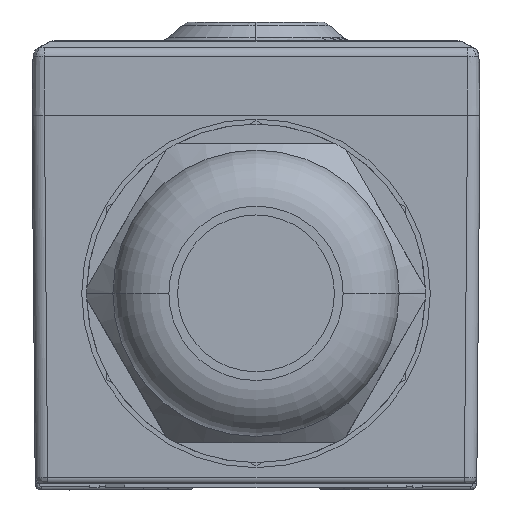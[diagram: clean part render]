
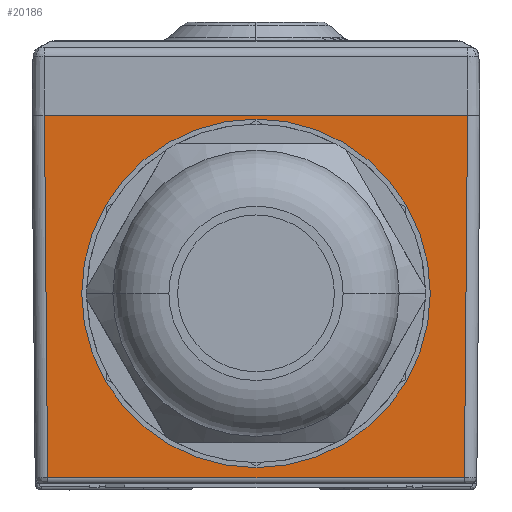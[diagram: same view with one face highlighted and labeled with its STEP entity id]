
A CAD part, front view. The second image highlights one B-rep face of the part: STEP entity #20186.
In plain terms, the highlighted planar face has unit normal (0, -1, -0.009).
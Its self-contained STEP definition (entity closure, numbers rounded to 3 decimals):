
#3583=DIRECTION('',(1.,0.,0.));
#3584=VECTOR('',#3583,33.475);
#3585=CARTESIAN_POINT('',(283.263,-89.384,
0.555));
#3586=LINE('',#3585,#3584);
#4915=CARTESIAN_POINT('',(316.991,-89.638,29.65));
#4933=DIRECTION('',(-0.009,-0.009,1.));
#4934=VECTOR('',#4933,29.097);
#4935=CARTESIAN_POINT('',(283.263,-89.384,
0.555));
#4936=LINE('',#4935,#4934);
#4937=DIRECTION('',(1.,0.,0.));
#4938=VECTOR('',#4937,33.983);
#4939=CARTESIAN_POINT('',(283.009,-89.638,29.65));
#4940=LINE('',#4939,#4938);
#4941=DIRECTION('',(-0.009,0.009,-1.));
#4942=VECTOR('',#4941,29.097);
#4943=CARTESIAN_POINT('',(316.991,-89.638,29.65));
#4944=LINE('',#4943,#4942);
#4967=CARTESIAN_POINT('',(310.5,-89.505,14.354));
#4968=CARTESIAN_POINT('',(310.5,-89.499,13.662));
#4969=CARTESIAN_POINT('',(310.366,-89.487,12.304));
#4970=CARTESIAN_POINT('',(309.767,-89.469,10.316));
#4971=CARTESIAN_POINT('',(308.787,-89.453,8.486));
#4972=CARTESIAN_POINT('',(307.488,-89.44,6.898));
#4973=CARTESIAN_POINT('',(305.882,-89.428,5.574));
#4974=CARTESIAN_POINT('',(304.049,-89.419,4.593));
#4975=CARTESIAN_POINT('',(302.062,-89.414,3.99));
#4976=CARTESIAN_POINT('',(300.002,-89.412,3.787));
#4977=CARTESIAN_POINT('',(297.943,-89.414,3.989));
#4978=CARTESIAN_POINT('',(295.964,-89.419,4.588));
#4979=CARTESIAN_POINT('',(294.139,-89.428,5.561));
#4980=CARTESIAN_POINT('',(292.533,-89.439,6.877));
#4981=CARTESIAN_POINT('',(291.228,-89.453,8.462));
#4982=CARTESIAN_POINT('',(290.241,-89.469,10.296));
#4983=CARTESIAN_POINT('',(289.636,-89.487,12.294));
#4984=CARTESIAN_POINT('',(289.5,-89.499,13.658));
#4985=CARTESIAN_POINT('',(289.5,-89.505,14.354));
#5101=CARTESIAN_POINT('',(289.5,-89.505,14.354));
#5102=CARTESIAN_POINT('',(289.5,-89.511,15.047));
#5103=CARTESIAN_POINT('',(289.634,-89.522,16.404));
#5104=CARTESIAN_POINT('',(290.233,-89.54,18.393));
#5105=CARTESIAN_POINT('',(291.212,-89.556,20.223));
#5106=CARTESIAN_POINT('',(292.512,-89.57,21.811));
#5107=CARTESIAN_POINT('',(294.118,-89.581,23.135));
#5108=CARTESIAN_POINT('',(295.951,-89.59,24.116));
#5109=CARTESIAN_POINT('',(297.937,-89.595,24.719));
#5110=CARTESIAN_POINT('',(299.998,-89.597,24.922));
#5111=CARTESIAN_POINT('',(302.057,-89.595,24.72));
#5112=CARTESIAN_POINT('',(304.036,-89.59,24.121));
#5113=CARTESIAN_POINT('',(305.861,-89.581,23.148));
#5114=CARTESIAN_POINT('',(307.467,-89.57,21.832));
#5115=CARTESIAN_POINT('',(308.772,-89.556,20.246));
#5116=CARTESIAN_POINT('',(309.759,-89.54,18.413));
#5117=CARTESIAN_POINT('',(310.364,-89.523,16.415));
#5118=CARTESIAN_POINT('',(310.5,-89.511,15.051));
#5119=CARTESIAN_POINT('',(310.5,-89.505,14.354));
#13190=CARTESIAN_POINT('',(316.737,-89.384,
0.555));
#13191=VERTEX_POINT('',#13190);
#13192=CARTESIAN_POINT('',(283.263,-89.384,
0.555));
#13193=VERTEX_POINT('',#13192);
#13262=VERTEX_POINT('',#4915);
#13263=CARTESIAN_POINT('',(283.009,-89.638,
29.65));
#13264=VERTEX_POINT('',#13263);
#13554=VERTEX_POINT('',#4967);
#13555=VERTEX_POINT('',#4985);
#20168=CARTESIAN_POINT('',(279.309,-89.647,30.65));
#20169=DIRECTION('',(0.,-1.,-0.009));
#20170=DIRECTION('',(1.,0.,0.));
#20171=AXIS2_PLACEMENT_3D('',#20168,#20169,#20170);
#20172=PLANE('',#20171);
#20174=ORIENTED_EDGE('',*,*,#20173,.T.);
#20175=ORIENTED_EDGE('',*,*,#18555,.T.);
#20176=ORIENTED_EDGE('',*,*,#20160,.T.);
#20177=ORIENTED_EDGE('',*,*,#18167,.F.);
#20178=EDGE_LOOP('',(#20174,#20175,#20176,#20177));
#20179=FACE_OUTER_BOUND('',#20178,.F.);
#20181=ORIENTED_EDGE('',*,*,#20180,.F.);
#20183=ORIENTED_EDGE('',*,*,#20182,.F.);
#20184=EDGE_LOOP('',(#20181,#20183));
#20185=FACE_BOUND('',#20184,.F.);
#20186=ADVANCED_FACE('',(#20179,#20185),#20172,.T.);
#4986=B_SPLINE_CURVE_WITH_KNOTS('',3,(#4967,#4968,#4969,#4970,#4971,#4972,#4973,
#4974,#4975,#4976,#4977,#4978,#4979,#4980,#4981,#4982,#4983,#4984,#4985),
.UNSPECIFIED.,.F.,.F.,(4,1,1,1,1,1,1,1,1,1,1,1,1,1,1,1,4),(0.,0.063,0.125,
0.188,0.25,0.313,0.375,0.438,0.5,0.563,0.625,0.688,
0.75,0.813,0.875,0.938,1.),.UNSPECIFIED.);
#5120=B_SPLINE_CURVE_WITH_KNOTS('',3,(#5101,#5102,#5103,#5104,#5105,#5106,#5107,
#5108,#5109,#5110,#5111,#5112,#5113,#5114,#5115,#5116,#5117,#5118,#5119),
.UNSPECIFIED.,.F.,.F.,(4,1,1,1,1,1,1,1,1,1,1,1,1,1,1,1,4),(0.,0.063,0.125,
0.188,0.25,0.313,0.375,0.438,0.5,0.563,0.625,0.688,
0.75,0.813,0.875,0.938,1.),.UNSPECIFIED.);
#18167=EDGE_CURVE('',#13193,#13191,#3586,.T.);
#18555=EDGE_CURVE('',#13264,#13262,#4940,.T.);
#20160=EDGE_CURVE('',#13262,#13191,#4944,.T.);
#20173=EDGE_CURVE('',#13193,#13264,#4936,.T.);
#20180=EDGE_CURVE('',#13554,#13555,#4986,.T.);
#20182=EDGE_CURVE('',#13555,#13554,#5120,.T.);
